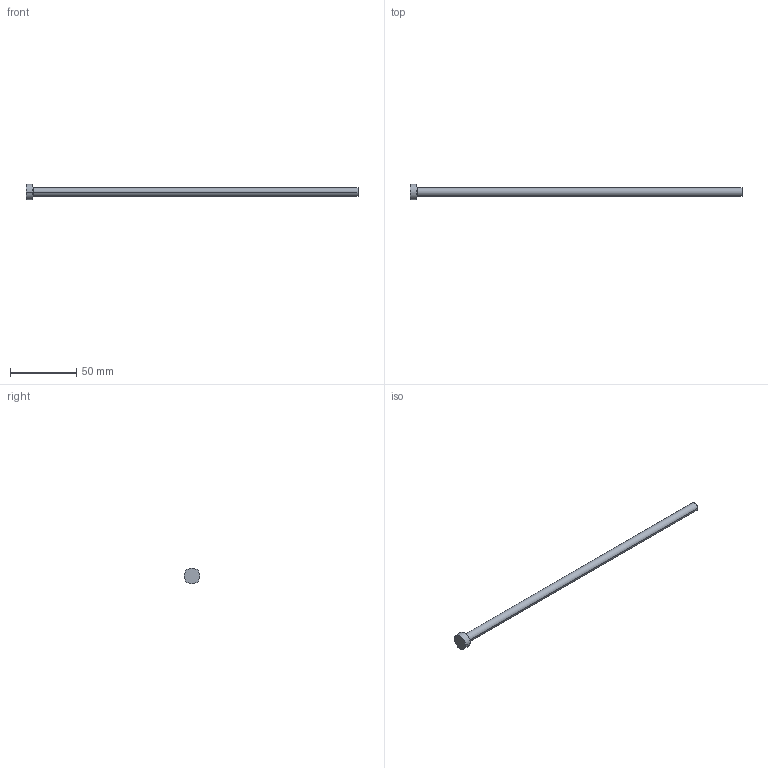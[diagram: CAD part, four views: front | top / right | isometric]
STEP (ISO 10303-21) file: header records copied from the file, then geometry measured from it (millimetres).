
FILE_DESCRIPTION (( 'STEP AP214' ), '1' );
FILE_NAME ('A-6,5x250.STEP', '2020-05-29T15:39:06', ( 'August' ), ( '' ), 'SwSTEP 2.0', 'SolidWorks 2018', '' );
FILE_SCHEMA (( 'AUTOMOTIVE_DESIGN' ));
Length unit declared in the file: millimetre
Products named in the file (1): A-6,5x250
Bounding box: 250 x 12 x 12 mm (x, y, z)
Volume: 8696.5 mm3; surface area: 5413.4 mm2
Topology: 1 solids, 1 shells, 9 faces, 16 edges, 10 vertices
Faces by surface type: cylinder 4, plane 3, torus 2
Entity records: 260 total; most frequent: DIRECTION 48, CARTESIAN_POINT 36, ORIENTED_EDGE 32, AXIS2_PLACEMENT_3D 22, EDGE_CURVE 16, CIRCLE 12, EDGE_LOOP 10, VERTEX_POINT 10
